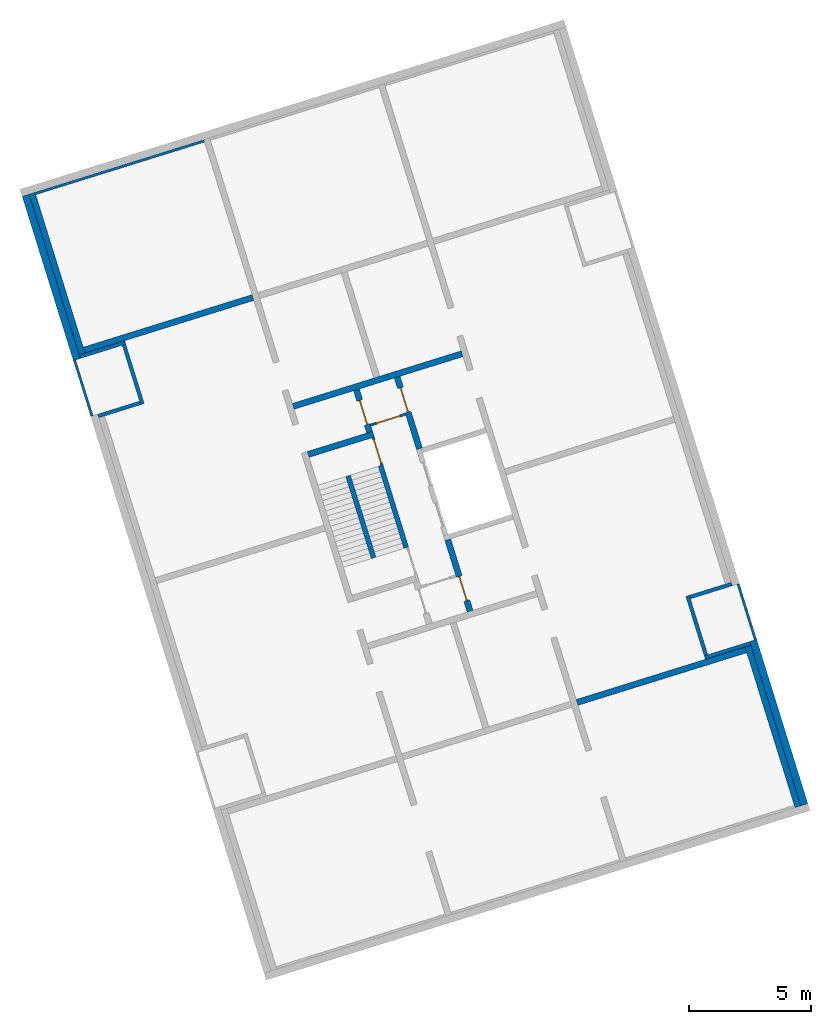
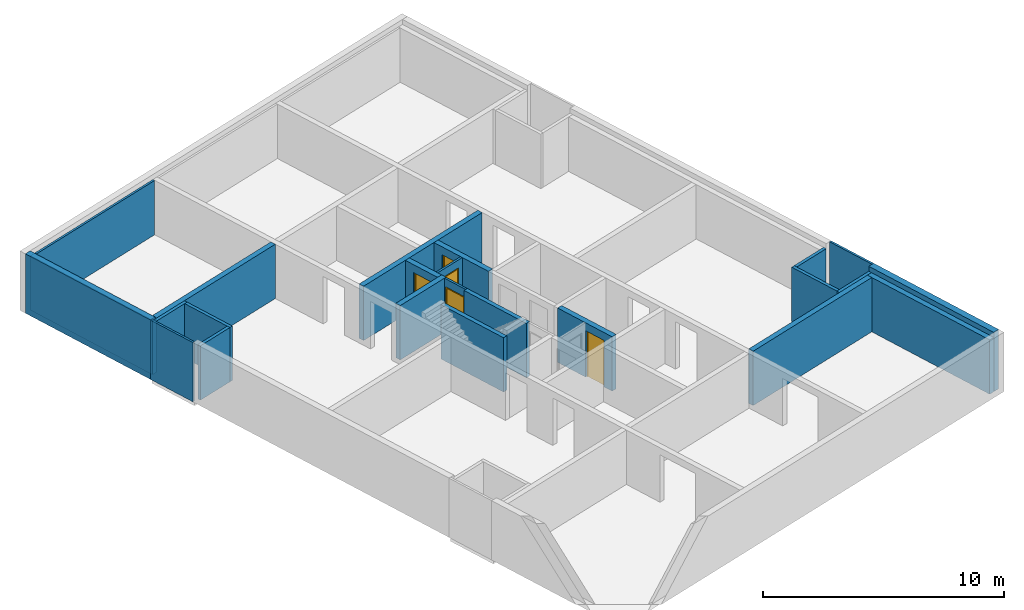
# One storey, part 2 of 5: 24 walls, 5 doors, 5 openings.
"""IFC4 building model written with IfcOpenShell, lengths in metres."""

import ifcopenshell
import ifcopenshell.guid

model = None  # the IFC model being written
_history = None  # IfcOwnerHistory: only IFC2X3 demands one
_inside = {}  # id of a spatial element -> (the spatial element, [elements in it])
_under = {}  # id of a project, library or spatial element -> (it, [spatial elements below it])
_declared = {}  # id of a project -> (the project, [libraries it declares])
_typed = {}  # id of a type object -> (the type object, [elements of that type])
_made_of = {}  # id of a material, layer set ... -> (it, [elements and type objects made of it])


def new_model(schema):
    """Start an empty IFC model of exactly this schema.

    Asked for "IFC4X3", IfcOpenShell would pick the latest addendum, in which some entities
    have other attributes; the version numbers below select the first issue.
    IFC2X3 requires an IfcOwnerHistory on every rooted entity: one is made here for all.
    """
    global model, _history
    if schema == "IFC4X3":
        model = ifcopenshell.file(schema_version=(4, 3, 0, 0))
    else:
        model = ifcopenshell.file(schema=schema)
    _inside.clear()
    _under.clear()
    _declared.clear()
    _typed.clear()
    _made_of.clear()
    _history = None
    if model.schema == "IFC2X3":
        org = make("IfcOrganization", Name="unknown")
        user = make(
            "IfcPersonAndOrganization",
            ThePerson=make("IfcPerson", FamilyName="unknown"),
            TheOrganization=org,
        )
        app = make(
            "IfcApplication",
            ApplicationDeveloper=org,
            Version="unknown",
            ApplicationFullName="unknown",
            ApplicationIdentifier="unknown",
        )
        _history = make(
            "IfcOwnerHistory",
            OwningUser=user,
            OwningApplication=app,
            ChangeAction="ADDED",
            CreationDate=0,
        )
    return model


def make(cls, **values):
    """One entity of the class cls with the attributes given. An attribute that is None is left unset."""
    return model.create_entity(
        cls, **{name: value for name, value in values.items() if value is not None}
    )


def entity(cls, *values):
    """Any entity or typed value of the class cls, its attributes in the order of the schema. None: left unset."""
    e = model.create_entity(cls)
    for i, value in enumerate(values):
        if value is not None:
            e[i] = value
    return e


def rooted(cls, **values):
    """An entity with a GlobalId (a new one), such as an element, a storey or a relation."""
    return make(cls, GlobalId=ifcopenshell.guid.new(), OwnerHistory=_history, **values)


def si_unit(unit_type, name, prefix=None):
    """IfcSIUnit, for example si_unit("LENGTHUNIT", "METRE", prefix="MILLI")."""
    return make("IfcSIUnit", UnitType=unit_type, Prefix=prefix, Name=name)


def converted_unit(unit_type, name, factor, base, dimensions=None, offset=None):
    """IfcConversionBasedUnit, such as the inch: factor (a typed value) times the base unit."""
    return make(
        "IfcConversionBasedUnit"
        if offset is None
        else "IfcConversionBasedUnitWithOffset",
        ConversionOffset=offset,
        Dimensions=None
        if dimensions is None
        else entity("IfcDimensionalExponents", *dimensions),
        UnitType=unit_type,
        Name=name,
        ConversionFactor=make(
            "IfcMeasureWithUnit", ValueComponent=factor, UnitComponent=base
        ),
    )


def assignment(units):
    """IfcUnitAssignment: the units of a project."""
    return None if units is None else make("IfcUnitAssignment", Units=units)


def point(xyz):
    """IfcCartesianPoint."""
    return None if xyz is None else make("IfcCartesianPoint", Coordinates=xyz)


def direction(xyz):
    """IfcDirection."""
    return None if xyz is None else make("IfcDirection", DirectionRatios=xyz)


def frame(location, z_axis=None, x_axis=None):
    """IfcAxis2Placement3D, a coordinate frame: its origin and axes. An axis left out is left unset."""
    return make(
        "IfcAxis2Placement3D",
        Location=point(location),
        Axis=direction(z_axis),
        RefDirection=direction(x_axis),
    )


def origin():
    """The frame at (0, 0, 0) with its axes left unset."""
    return frame((0.0, 0.0, 0.0))


def place(relative_to, where):
    """IfcLocalPlacement: puts the frame where relative to a parent placement (None: the world)."""
    return make(
        "IfcLocalPlacement", PlacementRelTo=relative_to, RelativePlacement=where
    )


def context(
    kind, dimensions, precision=None, world=None, true_north=None, identifier=None
):
    """IfcGeometricRepresentationContext, for example the 3D "Model" context."""
    return make(
        "IfcGeometricRepresentationContext",
        ContextIdentifier=identifier,
        ContextType=kind,
        CoordinateSpaceDimension=dimensions,
        Precision=precision,
        WorldCoordinateSystem=world,
        TrueNorth=true_north,
    )


def subcontext(parent, identifier, kind, view, scale=None):
    """IfcGeometricRepresentationSubContext, for example "Body" below "Model"."""
    return make(
        "IfcGeometricRepresentationSubContext",
        ContextIdentifier=identifier,
        ContextType=kind,
        ParentContext=parent,
        TargetScale=scale,
        TargetView=view,
    )


def project(units=None, contexts=None):
    """IfcProject with its units and contexts."""
    return rooted(
        "IfcProject",
        Name="project",
        RepresentationContexts=contexts,
        UnitsInContext=assignment(units),
    )


def spatial(cls, under=None, at=None, **own):
    """A site, building, storey or space (cls), placed at a placement, below another one or the project."""
    s = rooted(cls, ObjectPlacement=at, **own)
    if under is not None:
        _under.setdefault(under.id(), (under, []))[1].append(s)
    return s


def point_list(points):
    """IfcCartesianPointList2D or 3D."""
    cls = (
        "IfcCartesianPointList2D" if len(points[0]) == 2 else "IfcCartesianPointList3D"
    )
    return make(cls, CoordList=points)


def indexed_curve(points, segments=None, self_intersect=None):
    """IfcIndexedPolyCurve: lines and arcs through numbered points (the first is 1)."""
    return make(
        "IfcIndexedPolyCurve",
        Points=point_list(points),
        Segments=segments,
        SelfIntersect=self_intersect,
    )


def outline(outer, holes=None, kind="AREA"):
    """IfcArbitraryClosedProfileDef: a profile drawn as a closed curve; with holes, ...WithVoids."""
    if holes is None:
        return make("IfcArbitraryClosedProfileDef", ProfileType=kind, OuterCurve=outer)
    return make(
        "IfcArbitraryProfileDefWithVoids",
        ProfileType=kind,
        OuterCurve=outer,
        InnerCurves=holes,
    )


def extrude(swept, where, along, depth):
    """IfcExtrudedAreaSolid: the profile swept, set in the frame where, extruded along a direction by depth."""
    return make(
        "IfcExtrudedAreaSolid",
        SweptArea=swept,
        Position=where,
        ExtrudedDirection=direction(along),
        Depth=depth,
    )


def polygons(points, faces, closed=None, point_numbers=None):
    """IfcPolygonalFaceSet: a face is its outer loop, then its inner loops; points numbered from 1."""
    made = []
    for loops in faces:
        if len(loops) == 1:
            made.append(make("IfcIndexedPolygonalFace", CoordIndex=loops[0]))
        else:
            made.append(
                make(
                    "IfcIndexedPolygonalFaceWithVoids",
                    CoordIndex=loops[0],
                    InnerCoordIndices=loops[1:],
                )
            )
    return make(
        "IfcPolygonalFaceSet",
        Coordinates=point_list(points),
        Closed=closed,
        Faces=made,
        PnIndex=point_numbers,
    )


def shape(context_of_items, identifier, shape_type, items):
    """IfcShapeRepresentation: the items that make up one representation, for example the "Body"."""
    return make(
        "IfcShapeRepresentation",
        ContextOfItems=context_of_items,
        RepresentationIdentifier=identifier,
        RepresentationType=shape_type,
        Items=items,
    )


def source(mapping_origin, context_of_items, identifier, shape_type, items):
    """IfcRepresentationMap: a shape defined once, which mapped items show again and again."""
    return make(
        "IfcRepresentationMap",
        MappingOrigin=mapping_origin,
        MappedRepresentation=shape(context_of_items, identifier, shape_type, items),
    )


def transform(
    local_origin,
    x_axis=None,
    y_axis=None,
    z_axis=None,
    scale=None,
    scale2=None,
    scale3=None,
    uniform=True,
):
    """IfcCartesianTransformationOperator3D, or its non-uniform kind. x_axis, y_axis, z_axis: its Axis1, 2, 3."""
    if uniform:
        return make(
            "IfcCartesianTransformationOperator3D",
            Axis1=direction(x_axis),
            Axis2=direction(y_axis),
            LocalOrigin=point(local_origin),
            Scale=scale,
            Axis3=direction(z_axis),
        )
    return make(
        "IfcCartesianTransformationOperator3DnonUniform",
        Axis1=direction(x_axis),
        Axis2=direction(y_axis),
        LocalOrigin=point(local_origin),
        Scale=scale,
        Axis3=direction(z_axis),
        Scale2=scale2,
        Scale3=scale3,
    )


def mapped(mapping_source, mapping_target):
    """IfcMappedItem: shows the shape of a source again, moved by a transform."""
    return make(
        "IfcMappedItem", MappingSource=mapping_source, MappingTarget=mapping_target
    )


def material(Name=None, Category=None):
    """IfcMaterial."""
    return make("IfcMaterial", Name=Name, Category=Category)


def constituent(of_material, Name=None, Category=None, fraction=None):
    """IfcMaterialConstituent: one of the materials an element consists of."""
    return make(
        "IfcMaterialConstituent",
        Name=Name,
        Material=of_material,
        Fraction=fraction,
        Category=Category,
    )


def constituent_set(constituents=None, Name=None):
    """IfcMaterialConstituentSet."""
    return make(
        "IfcMaterialConstituentSet", Name=Name, MaterialConstituents=constituents
    )


def made_of(thing, what):
    """Note that an element or type object is made of a material, layer set ...; save() writes the relation."""
    if what is not None:
        _made_of.setdefault(what.id(), (what, []))[1].append(thing)
    return thing


def type_object(cls, material=None, **own):
    """A type object (cls), such as IfcWallType, which elements share."""
    return made_of(rooted(cls, **own), material)


def type_shapes(of_type, sources):
    """Give a type object the sources (RepresentationMaps) that its elements show as mapped items."""
    of_type.RepresentationMaps = sources


def element(
    cls,
    number,
    at=None,
    inside=None,
    cuts=None,
    type_object=None,
    material=None,
    context=None,
    identifier="Body",
    shape_type=None,
    held_by="IfcProductDefinitionShape",
    body=None,
    shapes=None,
    **own,
):
    """One element of the class cls, such as IfcWall. Its Tag is "e" and its number.

    at: its placement. inside: the storey or other place that contains it. cuts: it is an
    opening in that element (IfcRelVoidsElement). A single representation is given by context,
    identifier, shape_type and body (its items); several are given by shapes. held_by: the class
    of the entity that holds the representations. save() writes the other relations.
    """
    e = rooted(cls, Tag="e%d" % number, ObjectPlacement=at, **own)
    if body is not None:
        shapes = [shape(context, identifier, shape_type, body)]
    if shapes is not None:
        e.Representation = make(held_by, Representations=shapes)
    if inside is not None:
        _inside.setdefault(inside.id(), (inside, []))[1].append(e)
    if cuts is not None:
        rooted(
            "IfcRelVoidsElement", RelatingBuildingElement=cuts, RelatedOpeningElement=e
        )
    if type_object is not None:
        _typed.setdefault(type_object.id(), (type_object, []))[1].append(e)
    return made_of(e, material)


def fill(opening, filler):
    """IfcRelFillsElement: the door or window that sits in an opening."""
    return rooted(
        "IfcRelFillsElement",
        RelatingOpeningElement=opening,
        RelatedBuildingElement=filler,
    )


def aggregate(whole, parts):
    """IfcRelAggregates: a whole, such as a stair, and the parts it consists of."""
    return rooted("IfcRelAggregates", RelatingObject=whole, RelatedObjects=parts)


def save(model, path):
    """Write the relations noted so far, then the file.

    IfcRelAggregates (storeys below a building ...), IfcRelContainedInSpatialStructure (elements
    in a storey), IfcRelDefinesByType, IfcRelAssociatesMaterial and IfcRelDeclares: one each for
    every whole, place, type object, material and project.
    """
    for whole, parts in _under.values():
        aggregate(whole, parts)
    for where, things in _inside.values():
        rooted(
            "IfcRelContainedInSpatialStructure",
            RelatedElements=things,
            RelatingStructure=where,
        )
    for kind, things in _typed.values():
        rooted("IfcRelDefinesByType", RelatedObjects=things, RelatingType=kind)
    for what, things in _made_of.values():
        rooted("IfcRelAssociatesMaterial", RelatedObjects=things, RelatingMaterial=what)
    for by, libraries in _declared.values():
        rooted("IfcRelDeclares", RelatingContext=by, RelatedDefinitions=libraries)
    model.write(path)


model = new_model("IFC4")

# Units and contexts
model_context = context("Model", 3, precision=1e-05, world=origin(), true_north=direction((6.12323399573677e-17, 1.0)))
body_context = subcontext(model_context, "Body", "Model", "MODEL_VIEW")
ifc_project = project(units=[si_unit("LENGTHUNIT", "METRE"), si_unit("AREAUNIT", "SQUARE_METRE"), si_unit("VOLUMEUNIT", "CUBIC_METRE"), converted_unit("PLANEANGLEUNIT", "DEGREE", entity("IfcPlaneAngleMeasure", 0.0174532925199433), si_unit("PLANEANGLEUNIT", "RADIAN"), dimensions=[0, 0, 0, 0, 0, 0, 0])], contexts=[model_context])

# Site, building, storey
site_placement = place(None, frame((13.1347999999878, 11.9886000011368, 0.0), z_axis=(0.0, 0.0, 1.0), x_axis=(0.954770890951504, 0.297342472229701, 0.0)))
site = spatial("IfcSite", under=ifc_project, at=site_placement, Name="Schiehaven", CompositionType="ELEMENT")
building_placement = place(site_placement, origin())
building = spatial("IfcBuilding", under=site, at=building_placement, Name="VORM huis", CompositionType="ELEMENT")
storey_placement = place(building_placement, frame((0.0, 0.0, 3.9)))
storey = spatial("IfcBuildingStorey", under=building, at=storey_placement, Name="01 eerste verdieping", CompositionType="ELEMENT", Elevation=3.9)

# Walls
ifc_material_1 = material(Name="beton_gewapend_ihw", Category="Miscellaneous")
wall_type_1 = type_object("IfcWallType", Name="Basic Wall:28_WA_skelet_wand 250mm_gen", PredefinedType="STANDARD")
wall_1_placement = place(storey_placement, frame((80.0, 0.375000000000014, 0.0), z_axis=(0.0, 0.0, 1.0), x_axis=(0.0, 1.0, 0.0)))
element("IfcWall", 1, at=wall_1_placement, inside=storey, type_object=wall_type_1, material=ifc_material_1, Name="Constructieve wand", ObjectType="Wand", PredefinedType="NOTDEFINED", context=body_context, shape_type="SweptSolid", body=[
    extrude(outline(indexed_curve([(6.90000000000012, 0.125000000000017), (-3.43198038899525e-16, 0.125000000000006), (3.43198038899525e-16, -0.125000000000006), (6.90000000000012, -0.124999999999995), (6.90000000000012, 0.125000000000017)], self_intersect=False)), origin(), (0.0, 0.0, 1.0), 2.75),
])
wall_2_placement = place(storey_placement, frame((72.3750000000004, 22.2, 0.0), z_axis=(0.0, 0.0, 1.0), x_axis=(-1.0, 0.0, 0.0)))
element("IfcWall", 2, at=wall_2_placement, inside=storey, type_object=wall_type_1, material=ifc_material_1, Name="Constructieve wand", ObjectType="Wand", PredefinedType="NOTDEFINED", context=body_context, shape_type="SweptSolid", body=[
    extrude(outline(indexed_curve([(7.25000000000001, 0.125000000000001), (5.45998213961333e-16, 0.125000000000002), (-5.45998213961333e-16, -0.125000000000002), (7.25000000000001, -0.125000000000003), (7.25000000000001, 0.125000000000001)], self_intersect=False)), origin(), (0.0, 0.0, 1.0), 2.75),
])
wall_3_placement = place(storey_placement, frame((57.5000000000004, 26.825, 0.0), z_axis=(0.0, 0.0, 1.0), x_axis=(0.0, 1.0, 0.0)))
element("IfcWall", 3, at=wall_3_placement, inside=storey, type_object=wall_type_1, material=ifc_material_1, Name="Constructieve wand", ObjectType="Wand", PredefinedType="NOTDEFINED", context=body_context, shape_type="SweptSolid", body=[
    extrude(outline(indexed_curve([(6.90000000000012, 0.124999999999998), (-5.78291890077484e-18, 0.124999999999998), (5.78291890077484e-18, -0.124999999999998), (6.90000000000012, -0.124999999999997), (6.90000000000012, 0.124999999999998)], self_intersect=False)), origin(), (0.0, 0.0, 1.0), 2.75),
])
ifc_material_2 = material(Name="ntb_ntb_ntb", Category="Miscellaneous")
wall_type_2 = type_object("IfcWallType", Name="Basic Wall:21_WA_gevel_binnenspouwwand 100mm_gen", PredefinedType="STANDARD")
wall_4_placement = place(storey_placement, frame((64.8750000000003, 33.675, 0.0), z_axis=(0.0, 0.0, 1.0), x_axis=(-1.0, 0.0, 0.0)))
element("IfcWall", 4, at=wall_4_placement, inside=storey, type_object=wall_type_2, material=ifc_material_2, Name="Binnenspouwblad", ObjectType="Wand", PredefinedType="NOTDEFINED", context=body_context, shape_type="SweptSolid", body=[
    extrude(outline(indexed_curve([(7.24999999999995, 0.0499999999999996), (1.63227275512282e-16, 0.0500000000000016), (-1.63227275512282e-16, -0.0500000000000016), (7.24999999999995, -0.0500000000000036), (7.24999999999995, 0.0499999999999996)], self_intersect=False)), origin(), (0.0, 0.0, 1.0), 2.75),
])
wall_type_3 = type_object("IfcWallType", Name="Basic Wall: 300mm_gen", PredefinedType="STANDARD")
wall_5_placement = place(storey_placement, frame((80.2750000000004, 0.375000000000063, 0.0), z_axis=(0.0, 0.0, 1.0), x_axis=(0.0, 1.0, 0.0)))
element("IfcWall", 5, at=wall_5_placement, inside=storey, type_object=wall_type_3, material=ifc_material_2, Name="Gevelwand", ObjectType="Wand", PredefinedType="NOTDEFINED", context=body_context, shape_type="SweptSolid", body=[
    extrude(outline(indexed_curve([(7.05000000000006, 0.149999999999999), (-1.38374462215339e-16, 0.150000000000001), (1.38374462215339e-16, -0.150000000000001), (7.05000000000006, -0.150000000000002), (7.05000000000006, 0.149999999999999)], self_intersect=False)), origin(), (0.0, 0.0, 1.0), 3.0),
])
wall_6_placement = place(storey_placement, frame((57.2250000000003, 26.675, 0.0), z_axis=(0.0, 0.0, 1.0), x_axis=(0.0, 1.0, 0.0)))
element("IfcWall", 6, at=wall_6_placement, inside=storey, type_object=wall_type_3, material=ifc_material_2, Name="Gevelwand", ObjectType="Wand", PredefinedType="NOTDEFINED", context=body_context, shape_type="SweptSolid", body=[
    extrude(outline(indexed_curve([(7.04999999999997, 0.150000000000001), (5.38417493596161e-16, 0.150000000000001), (-5.38417493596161e-16, -0.150000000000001), (7.04999999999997, -0.15), (7.04999999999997, 0.150000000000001)], self_intersect=False)), origin(), (0.0, 0.0, 1.0), 3.0),
])
ifc_material_3 = material(Name="beton_gewapend_prefab-element", Category="Miscellaneous")
wall_type_4 = type_object("IfcWallType", Name="Basic Wall:28_WA_skelet_wand 200mm_gen", PredefinedType="STANDARD")
wall_7_placement = place(storey_placement, frame((67.8250000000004, 15.29, 0.0), z_axis=(0.0, 0.0, 1.0), x_axis=(0.0, 1.0, 0.0)))
element("IfcWall", 7, at=wall_7_placement, inside=storey, type_object=wall_type_4, material=ifc_material_3, Name="Constructieve wand", ObjectType="Wand", PredefinedType="NOTDEFINED", context=body_context, shape_type="SweptSolid", body=[
    extrude(outline(indexed_curve([(3.52, 0.100000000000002), (5.14948433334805e-16, 0.100000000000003), (-5.14948433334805e-16, -0.100000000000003), (3.52, -0.100000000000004), (3.52, 0.100000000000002)], self_intersect=False)), origin(), (0.0, 0.0, 1.0), 2.75),
])
wall_8_placement = place(storey_placement, frame((66.4250000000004, 15.29, 0.0), z_axis=(0.0, 0.0, 1.0), x_axis=(0.0, 1.0, 0.0)))
element("IfcWall", 8, at=wall_8_placement, inside=storey, type_object=wall_type_4, material=ifc_material_3, Name="Constructieve wand", ObjectType="Wand", PredefinedType="NOTDEFINED", context=body_context, shape_type="SweptSolid", body=[
    extrude(outline(indexed_curve([(3.52, 0.100000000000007), (6.38001516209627e-16, 0.100000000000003), (-6.38001516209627e-16, -0.100000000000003), (3.52, -0.0999999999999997), (3.52, 0.100000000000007)], self_intersect=False)), origin(), (0.0, 0.0, 1.0), 2.75),
])
wall_type_5 = type_object("IfcWallType", Name="Basic Wall:22_WA_afbouw_binnenwand 250mm_gen", PredefinedType="STANDARD")
wall_9_placement = place(storey_placement, frame((65.1250000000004, 20.135, 0.0)))
element("IfcWall", 9, at=wall_9_placement, inside=storey, type_object=wall_type_5, material=ifc_material_2, Name="Binnenwand", ObjectType="Wand", PredefinedType="NOTDEFINED", context=body_context, shape_type="SweptSolid", body=[
    extrude(outline(indexed_curve([(2.80000000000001, 0.124999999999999), (4.98902105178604e-16, 0.125000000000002), (-4.98902105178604e-16, -0.125000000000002), (2.8, -0.125000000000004), (2.80000000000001, 0.124999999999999)], self_intersect=False)), origin(), (0.0, 0.0, 1.0), 2.75),
])

# Wall, opening, door
wall_10_placement = place(storey_placement, frame((67.8000000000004, 20.26, 0.0), z_axis=(0.0, 0.0, 1.0), x_axis=(0.0, 1.0, 0.0)))
wall_10 = element("IfcWall", 10, at=wall_10_placement, inside=storey, type_object=wall_type_5, material=ifc_material_2, Name="Binnenwand", ObjectType="Wand", PredefinedType="NOTDEFINED", context=body_context, shape_type="Tessellation", body=[
    polygons([(1.36499999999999, -0.12500000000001, 2.34999999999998), (1.36499999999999, -0.12500000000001, -5.41433564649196e-16), (1.81499999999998, -0.125000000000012, -5.41433564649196e-16), (1.81499999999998, -0.125000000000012, 2.75), (0.315000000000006, -0.125000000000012, 2.75), (0.215000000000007, -0.125000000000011, 2.75), (-4.33146851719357e-15, -0.12500000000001, 2.75), (-4.33146851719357e-15, -0.12500000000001, -5.41433564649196e-16), (0.215000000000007, -0.125000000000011, 0.0), (0.314999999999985, -0.125000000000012, -5.41433564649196e-16), (0.314999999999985, -0.125000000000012, 2.34999999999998), (1.81499999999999, 0.124999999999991, -5.41433564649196e-16), (1.36499999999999, 0.124999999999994, -5.41433564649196e-16), (1.36499999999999, 0.124999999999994, 2.34999999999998), (0.314999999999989, 0.125000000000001, 2.34999999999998), (0.314999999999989, 0.125000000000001, -5.41433564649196e-16), (0.0, 0.125000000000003, -5.41433564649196e-16), (0.0, 0.125000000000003, 2.75), (1.81499999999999, 0.124999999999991, 2.75)], [[[1, 2, 3, 4, 5, 6, 7, 8, 9, 10, 11]], [[12, 13, 14, 15, 16, 17, 18, 19]], [[10, 9, 8, 17, 16]], [[4, 3, 12, 19]], [[7, 6, 5, 4, 19, 18]], [[16, 15, 11, 10]], [[14, 13, 2, 1]], [[15, 14, 1, 11]], [[8, 7, 18, 17]], [[3, 2, 13, 12]]], closed=True),
])
opening_1_placement = place(wall_10_placement, frame((1.36499999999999, 0.125000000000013, 0.0)))
opening_1 = element("IfcOpeningElement", 11, at=opening_1_placement, cuts=wall_10, Name="Woningtoegangsdeur", PredefinedType="OPENING", context=body_context, shape_type="SweptSolid", body=[
    extrude(outline(indexed_curve([(2.34999999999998, 1.05), (0.0, 1.05), (0.0, 3.98354849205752e-29), (2.34999999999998, 3.98354849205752e-29), (2.34999999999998, 1.05)], self_intersect=False)), frame((0.0, 0.0, 0.0), z_axis=(0.0, -1.0, 0.0), x_axis=(0.0, 0.0, 1.0)), (0.0, 0.0, 1.0), 0.25),
])
ifc_material_4 = material(Name="PD_a_binnenwandopeningen", Category="Miscellaneous")
ifc_constituent_1 = constituent(ifc_material_4, Name="PD_a_binnenwandopeningen", Category="Miscellaneous")
ifc_material_5 = material(Name="metaal_aluminium_ntb", Category="Miscellaneous")
ifc_constituent_2 = constituent(ifc_material_5, Name="metaal_aluminium_ntb", Category="Miscellaneous")
ifc_constituent_set_1 = constituent_set(constituents=[ifc_constituent_1, ifc_constituent_2])
ifc_constituent_3 = constituent(ifc_material_4, Name="PD_a_binnenwandopeningen", Category="Miscellaneous")
ifc_constituent_4 = constituent(ifc_material_5, Name="Panel", Category="Miscellaneous")
ifc_constituent_set_2 = constituent_set(constituents=[ifc_constituent_3, ifc_constituent_4])
door_type_1 = type_object("IfcDoorType", Name="32_DO_binnendeur enkel:woningtoegangsdeur", OperationType="REVOLVING", PredefinedType="DOOR", material=ifc_constituent_set_2)
shared_shape_1 = source(origin(), body_context, "Body", "SweptSolid", [
    extrude(outline(indexed_curve([(-1.16249999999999, -0.525000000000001), (1.18749999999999, -0.525), (1.18749999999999, 0.525000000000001), (-1.16249999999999, 0.525000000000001), (-1.16249999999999, 0.475), (1.13749999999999, 0.475), (1.13749999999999, -0.475), (-1.16249999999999, -0.475), (-1.16249999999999, -0.525000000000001)], self_intersect=False)), frame((0.525000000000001, 0.0749999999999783, 1.16249999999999), z_axis=(0.0, 1.0, 0.0), x_axis=(0.0, 0.0, 1.0)), (0.0, 0.0, 1.0), 0.1),
    extrude(outline(indexed_curve([(-0.025, -0.475), (0.025, -0.475), (0.025, 0.475), (-0.025, 0.475), (-0.025, -0.475)], self_intersect=False)), frame((0.525000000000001, 0.12499999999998, 0.0), z_axis=(0.0, 0.0, 1.0), x_axis=(0.0, 1.0, 0.0)), (0.0, 0.0, 1.0), 2.29999999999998),
])
type_shapes(door_type_1, [shared_shape_1])
door_1_placement = place(opening_1_placement, frame((0.0, 0.0, 0.0), z_axis=(0.0, 0.0, 1.0), x_axis=(-1.0, 0.0, 0.0)))
door_1 = element("IfcDoor", 12, at=door_1_placement, inside=storey, type_object=door_type_1, material=ifc_constituent_set_1, Name="Woningtoegangsdeur", ObjectType="Deur", OperationType="REVOLVING", OverallHeight=2.34999999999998, OverallWidth=1.05, PredefinedType="DOOR", context=body_context, shape_type="MappedRepresentation", body=[
    mapped(shared_shape_1, transform((0.0, 0.0, 0.0), scale=1.0)),
])
fill(opening_1, door_1)

wall_11_placement = place(storey_placement, frame((69.5500000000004, 19.0, 0.0), z_axis=(0.0, 0.0, 1.0), x_axis=(0.0, 1.0, 0.0)))
wall_11 = element("IfcWall", 13, at=wall_11_placement, inside=storey, type_object=wall_type_5, material=ifc_material_2, Name="Binnenwand", ObjectType="Wand", PredefinedType="NOTDEFINED", context=body_context, shape_type="Tessellation", body=[
    polygons([(2.62500000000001, -0.125000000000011, 2.34999999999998), (2.62500000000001, -0.125000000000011, -5.41433564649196e-16), (3.07499999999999, -0.125000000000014, -5.41433564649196e-16), (3.07499999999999, -0.125000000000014, 2.75), (2.16573425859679e-15, -0.125000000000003, 2.75), (2.16573425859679e-15, -0.125000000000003, -5.41433564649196e-16), (1.575, -0.125000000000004, -5.41433564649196e-16), (1.575, -0.125000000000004, 2.34999999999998), (3.075, 0.124999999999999, -5.41433564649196e-16), (2.62500000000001, 0.125000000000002, -5.41433564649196e-16), (2.62500000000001, 0.125000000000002, 2.34999999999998), (1.575, 0.125, 2.34999999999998), (1.575, 0.125, -5.41433564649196e-16), (1.47500000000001, 0.125, 0.0), (0.0, 0.125000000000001, -5.41433564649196e-16), (0.0, 0.125000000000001, 2.75), (1.47500000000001, 0.125, 2.75), (1.57500000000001, 0.125, 2.75), (3.075, 0.124999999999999, 2.75)], [[[1, 2, 3, 4, 5, 6, 7, 8]], [[9, 10, 11, 12, 13, 14, 15, 16, 17, 18, 19]], [[7, 6, 15, 14, 13]], [[4, 3, 9, 19]], [[5, 4, 19, 18, 17, 16]], [[6, 5, 16, 15]], [[13, 12, 8, 7]], [[11, 10, 2, 1]], [[12, 11, 1, 8]], [[3, 2, 10, 9]]], closed=True),
])
opening_2_placement = place(wall_11_placement, frame((1.57500000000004, -0.124999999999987, 0.0)))
opening_2 = element("IfcOpeningElement", 14, at=opening_2_placement, cuts=wall_11, Name="Woningtoegangsdeur", PredefinedType="OPENING", context=body_context, shape_type="SweptSolid", body=[
    extrude(outline(indexed_curve([(2.34999999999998, 4.05964127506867e-29), (2.34999999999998, 1.05), (0.0, 1.05), (0.0, 4.05964127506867e-29), (2.34999999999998, 4.05964127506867e-29)], self_intersect=False)), frame((0.0, 0.0, 0.0), z_axis=(0.0, 1.0, 0.0), x_axis=(0.0, 0.0, 1.0)), (0.0, 0.0, 1.0), 0.25),
])
ifc_constituent_5 = constituent(ifc_material_4, Name="PD_a_binnenwandopeningen", Category="Miscellaneous")
ifc_constituent_6 = constituent(ifc_material_5, Name="metaal_aluminium_ntb", Category="Miscellaneous")
ifc_constituent_set_3 = constituent_set(constituents=[ifc_constituent_5, ifc_constituent_6])
ifc_constituent_7 = constituent(ifc_material_4, Name="PD_a_binnenwandopeningen", Category="Miscellaneous")
ifc_constituent_8 = constituent(ifc_material_5, Name="Panel", Category="Miscellaneous")
ifc_constituent_set_4 = constituent_set(constituents=[ifc_constituent_7, ifc_constituent_8])
door_type_2 = type_object("IfcDoorType", Name="32_DO_binnendeur enkel:woningtoegangsdeur", OperationType="REVOLVING", PredefinedType="DOOR", material=ifc_constituent_set_4)
shared_shape_2 = source(origin(), body_context, "Body", "SweptSolid", [
    extrude(outline(indexed_curve([(0.475, -1.16249999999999), (0.525000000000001, -1.16249999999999), (0.525000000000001, 1.18749999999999), (-0.525000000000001, 1.18749999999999), (-0.525000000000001, -1.16249999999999), (-0.475, -1.16249999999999), (-0.475, 1.13749999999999), (0.475, 1.13749999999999), (0.475, -1.16249999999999)], self_intersect=False)), frame((0.525000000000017, 0.174999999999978, 1.16249999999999), z_axis=(0.0, -1.0, 0.0), x_axis=(1.0, 0.0, 0.0)), (0.0, 0.0, 1.0), 0.1),
    extrude(outline(indexed_curve([(-0.475, -0.025), (0.475, -0.025), (0.475, 0.025), (-0.475, 0.025), (-0.475, -0.025)], self_intersect=False)), frame((0.525000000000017, 0.12499999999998, 0.0)), (0.0, 0.0, 1.0), 2.29999999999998),
])
type_shapes(door_type_2, [shared_shape_2])
door_2_placement = place(opening_2_placement, origin())
door_2 = element("IfcDoor", 15, at=door_2_placement, inside=storey, type_object=door_type_2, material=ifc_constituent_set_3, Name="Woningtoegangsdeur", ObjectType="Deur", OperationType="REVOLVING", OverallHeight=2.34999999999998, OverallWidth=1.05, PredefinedType="DOOR", context=body_context, shape_type="MappedRepresentation", body=[
    mapped(shared_shape_2, transform((0.0, 0.0, 0.0), scale=1.0)),
])
fill(opening_2, door_2)

wall_12_placement = place(storey_placement, frame((69.5500000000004, 15.1, 0.0), z_axis=(0.0, 0.0, 1.0), x_axis=(0.0, -1.0, 0.0)))
wall_12 = element("IfcWall", 16, at=wall_12_placement, inside=storey, type_object=wall_type_5, material=ifc_material_2, Name="Binnenwand", ObjectType="Wand", PredefinedType="NOTDEFINED", context=body_context, shape_type="Tessellation", body=[
    polygons([(2.625, -0.125000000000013, 2.34999999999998), (2.625, -0.125000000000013, -5.41433564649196e-16), (3.07499999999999, -0.125000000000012, -5.41433564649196e-16), (3.07499999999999, -0.125000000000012, 2.75), (1.57499999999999, -0.125000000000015, 2.75), (1.47499999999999, -0.125000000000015, 2.75), (0.0, -0.125000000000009, 2.75), (0.0, -0.125000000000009, -5.41433564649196e-16), (1.47499999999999, -0.125000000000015, 0.0), (1.575, -0.125000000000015, -5.41433564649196e-16), (1.575, -0.125000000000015, 2.34999999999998), (3.07499999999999, 0.124999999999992, -5.41433564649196e-16), (2.625, 0.124999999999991, -5.41433564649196e-16), (2.625, 0.124999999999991, 2.34999999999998), (1.575, 0.124999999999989, 2.34999999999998), (1.575, 0.124999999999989, -5.41433564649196e-16), (0.0, 0.124999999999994, -5.41433564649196e-16), (0.0, 0.124999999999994, 2.75), (3.07499999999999, 0.124999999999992, 2.75)], [[[1, 2, 3, 4, 5, 6, 7, 8, 9, 10, 11]], [[12, 13, 14, 15, 16, 17, 18, 19]], [[10, 9, 8, 17, 16]], [[4, 3, 12, 19]], [[7, 6, 5, 4, 19, 18]], [[8, 7, 18, 17]], [[16, 15, 11, 10]], [[14, 13, 2, 1]], [[15, 14, 1, 11]], [[3, 2, 13, 12]]], closed=True),
])
opening_3_placement = place(wall_12_placement, frame((2.625, 0.124999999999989, 0.0)))
opening_3 = element("IfcOpeningElement", 17, at=opening_3_placement, cuts=wall_12, Name="Woningtoegangsdeur", PredefinedType="OPENING", context=body_context, shape_type="SweptSolid", body=[
    extrude(outline(indexed_curve([(2.34999999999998, 1.05), (0.0, 1.05), (0.0, 1.08286712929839e-15), (2.34999999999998, 1.08286712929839e-15), (2.34999999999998, 1.05)], self_intersect=False)), frame((0.0, 0.0, 0.0), z_axis=(0.0, -1.0, 0.0), x_axis=(0.0, 0.0, 1.0)), (0.0, 0.0, 1.0), 0.25),
])
ifc_constituent_9 = constituent(ifc_material_4, Name="PD_a_binnenwandopeningen", Category="Miscellaneous")
ifc_constituent_10 = constituent(ifc_material_5, Name="metaal_aluminium_ntb", Category="Miscellaneous")
ifc_constituent_set_5 = constituent_set(constituents=[ifc_constituent_9, ifc_constituent_10])
door_3_placement = place(opening_3_placement, frame((0.0, 0.0, 0.0), z_axis=(0.0, 0.0, 1.0), x_axis=(-1.0, 0.0, 0.0)))
door_3 = element("IfcDoor", 18, at=door_3_placement, inside=storey, type_object=door_type_1, material=ifc_constituent_set_5, Name="Woningtoegangsdeur", ObjectType="Deur", OperationType="REVOLVING", OverallHeight=2.34999999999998, OverallWidth=1.05, PredefinedType="DOOR", context=body_context, shape_type="MappedRepresentation", body=[
    mapped(shared_shape_1, transform((0.0, 0.0, 0.0), scale=1.0)),
])
fill(opening_3, door_3)

# Walls
wall_13_placement = place(storey_placement, frame((79.8750000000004, 7.15000000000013, 0.0), z_axis=(0.0, 0.0, 1.0), x_axis=(-1.0, 0.0, 0.0)))
element("IfcWall", 19, at=wall_13_placement, inside=storey, type_object=wall_type_5, material=ifc_material_2, Name="Binnenwand", ObjectType="Wand", PredefinedType="NOTDEFINED", context=body_context, shape_type="SweptSolid", body=[
    extrude(outline(indexed_curve([(7.24999999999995, 0.125), (2.64740926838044e-16, 0.125), (-2.64740926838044e-16, -0.125), (7.24999999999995, -0.125), (7.24999999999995, 0.125)], self_intersect=False)), origin(), (0.0, 0.0, 1.0), 2.75),
])
wall_14_placement = place(storey_placement, frame((64.8750000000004, 26.95, 0.0), z_axis=(0.0, 0.0, 1.0), x_axis=(-1.0, 0.0, 0.0)))
element("IfcWall", 20, at=wall_14_placement, inside=storey, type_object=wall_type_5, material=ifc_material_2, Name="Binnenwand", ObjectType="Wand", PredefinedType="NOTDEFINED", context=body_context, shape_type="SweptSolid", body=[
    extrude(outline(indexed_curve([(7.24999999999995, 0.125000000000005), (6.85879083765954e-16, 0.125000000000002), (-6.85879083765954e-16, -0.125000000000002), (7.24999999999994, -0.124999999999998), (7.24999999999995, 0.125000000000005)], self_intersect=False)), origin(), (0.0, 0.0, 1.0), 2.75),
])

# Wall, opening, door
wall_type_6 = type_object("IfcWallType", Name="Basic Wall:22_WA_afbouw_binnenwand 100mm_gen", PredefinedType="STANDARD")
wall_15_placement = place(storey_placement, frame((67.8750000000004, 20.01, 0.0), z_axis=(0.0, 0.0, 1.0), x_axis=(0.0, -1.0, 0.0)))
wall_15 = element("IfcWall", 21, at=wall_15_placement, inside=storey, type_object=wall_type_6, material=ifc_material_2, Name="Binnenwand", ObjectType="Wand", PredefinedType="NOTDEFINED", context=body_context, shape_type="Tessellation", body=[
    polygons([(1.19999999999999, -0.0500000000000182, -5.41433564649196e-16), (1.19999999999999, -0.0500000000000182, 2.75), (0.0, -0.0500000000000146, 2.75), (0.0, -0.0500000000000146, -5.41433564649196e-16), (0.0750000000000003, -0.0500000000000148, -5.41433564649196e-16), (0.0750000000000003, -0.0500000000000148, 2.34999999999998), (1.125, -0.050000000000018, 2.34999999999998), (1.125, -0.050000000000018, -5.41433564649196e-16), (1.19999999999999, 0.0499999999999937, 2.75), (1.19999999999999, 0.0499999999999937, -5.41433564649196e-16), (1.125, 0.049999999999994, -5.41433564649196e-16), (1.125, 0.049999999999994, 2.34999999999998), (0.0750000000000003, 0.0499999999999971, 2.34999999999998), (0.0750000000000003, 0.0499999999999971, -5.41433564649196e-16), (0.0, 0.0499999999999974, -5.41433564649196e-16), (0.0, 0.0499999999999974, 2.75)], [[[1, 2, 3, 4, 5, 6, 7, 8]], [[9, 10, 11, 12, 13, 14, 15, 16]], [[4, 15, 14, 5]], [[2, 1, 10, 9]], [[3, 2, 9, 16]], [[13, 6, 5, 14]], [[6, 13, 12, 7]], [[7, 12, 11, 8]], [[4, 3, 16, 15]], [[10, 1, 8, 11]]], closed=True),
])
opening_4_placement = place(wall_15_placement, frame((1.125, 0.0500000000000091, 0.0)))
opening_4 = element("IfcOpeningElement", 22, at=opening_4_placement, cuts=wall_15, Name="Vluchtdeur", PredefinedType="OPENING", context=body_context, shape_type="SweptSolid", body=[
    extrude(outline(indexed_curve([(2.34999999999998, 9.67690789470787e-30), (2.34999999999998, 1.05), (0.0, 1.05), (0.0, 9.67690789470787e-30), (2.34999999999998, 9.67690789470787e-30)], self_intersect=False)), frame((0.0, 0.0, 0.0), z_axis=(0.0, -1.0, 0.0), x_axis=(0.0, 0.0, 1.0)), (0.0, 0.0, 1.0), 0.1),
])
ifc_constituent_11 = constituent(ifc_material_4, Name="PD_a_binnenwandopeningen", Category="Miscellaneous")
ifc_constituent_12 = constituent(ifc_material_5, Name="metaal_aluminium_ntb", Category="Miscellaneous")
ifc_constituent_set_6 = constituent_set(constituents=[ifc_constituent_11, ifc_constituent_12])
ifc_constituent_13 = constituent(ifc_material_4, Name="PD_a_binnenwandopeningen", Category="Miscellaneous")
ifc_constituent_14 = constituent(ifc_material_5, Name="Panel", Category="Miscellaneous")
ifc_constituent_set_7 = constituent_set(constituents=[ifc_constituent_13, ifc_constituent_14])
door_type_3 = type_object("IfcDoorType", Name="32_DO_binnendeur enkel:binnendeur zelfsluitend 30min", OperationType="NOTDEFINED", PredefinedType="DOOR", material=ifc_constituent_set_7)
shared_shape_3 = source(origin(), body_context, "Body", "SweptSolid", [
    extrude(outline(indexed_curve([(0.475, -1.16249999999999), (0.525, -1.16249999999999), (0.525, 1.18749999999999), (-0.525, 1.18749999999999), (-0.525, -1.16249999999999), (-0.475, -1.16249999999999), (-0.475, 1.13749999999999), (0.475, 1.13749999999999), (0.475, -1.16249999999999)], self_intersect=False)), frame((0.525000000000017, 0.100000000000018, 1.16249999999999), z_axis=(0.0, -1.0, 0.0), x_axis=(1.0, 0.0, 0.0)), (0.0, 0.0, 1.0), 0.1),
    extrude(outline(indexed_curve([(-0.475, -0.025), (0.475, -0.025), (0.475, 0.025), (-0.475, 0.025), (-0.475, -0.025)], self_intersect=False)), frame((0.525000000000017, 0.0499999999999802, 0.0)), (0.0, 0.0, 1.0), 2.29999999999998),
])
type_shapes(door_type_3, [shared_shape_3])
door_4_placement = place(opening_4_placement, frame((0.0, 0.0, 0.0), z_axis=(0.0, 0.0, 1.0), x_axis=(-1.0, 0.0, 0.0)))
door_4 = element("IfcDoor", 23, at=door_4_placement, inside=storey, type_object=door_type_3, material=ifc_constituent_set_6, Name="Vluchtdeur", ObjectType="Deur", OperationType="NOTDEFINED", OverallHeight=2.34999999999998, OverallWidth=1.05, PredefinedType="DOOR", context=body_context, shape_type="MappedRepresentation", body=[
    mapped(shared_shape_3, transform((0.0, 0.0, 0.0), scale=1.0)),
])
fill(opening_4, door_4)

wall_16_placement = place(storey_placement, frame((67.9250000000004, 20.525, 0.0)))
wall_16 = element("IfcWall", 24, at=wall_16_placement, inside=storey, type_object=wall_type_6, material=ifc_material_2, Name="Binnenwand", ObjectType="Wand", PredefinedType="NOTDEFINED", context=body_context, shape_type="Tessellation", body=[
    polygons([(1.49999999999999, -0.0499999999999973, 2.75), (-3.09224517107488e-15, -0.0499999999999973, 2.75), (-3.09224517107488e-15, -0.0499999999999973, -5.41433564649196e-16), (0.22499999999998, -0.0499999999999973, -5.41433564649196e-16), (0.22499999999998, -0.0499999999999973, 2.34999999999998), (1.27499999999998, -0.0499999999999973, 2.34999999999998), (1.27499999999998, -0.0499999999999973, -5.41433564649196e-16), (1.49999999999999, -0.0499999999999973, -5.41433564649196e-16), (-3.14965753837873e-15, 0.0500000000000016, 2.75), (1.49999999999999, 0.0500000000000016, 2.75), (1.49999999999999, 0.0500000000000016, 2.34999999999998), (1.49999999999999, 0.0500000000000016, -5.41433564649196e-16), (1.27499999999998, 0.0500000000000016, -5.41433564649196e-16), (1.27499999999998, 0.0500000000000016, 2.34999999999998), (0.22499999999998, 0.0500000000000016, 2.34999999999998), (0.22499999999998, 0.0500000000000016, -5.41433564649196e-16), (-3.14965753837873e-15, 0.0500000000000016, -5.41433564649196e-16), (-3.14965753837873e-15, 0.0500000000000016, 2.34999999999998)], [[[1, 2, 3, 4, 5, 6, 7, 8]], [[9, 10, 11, 12, 13, 14, 15, 16, 17, 18]], [[3, 17, 16, 4]], [[2, 1, 10, 9]], [[15, 5, 4, 16]], [[5, 15, 14, 6]], [[6, 14, 13, 7]], [[3, 2, 9, 18, 17]], [[1, 8, 12, 11, 10]], [[12, 8, 7, 13]]], closed=True),
])
opening_5_placement = place(wall_16_placement, frame((1.275, 0.0500000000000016, 0.0)))
opening_5 = element("IfcOpeningElement", 25, at=opening_5_placement, cuts=wall_16, Name="Vluchtdeur", PredefinedType="OPENING", context=body_context, shape_type="SweptSolid", body=[
    extrude(outline(indexed_curve([(2.34999999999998, 0.0), (2.34999999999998, 1.05), (0.0, 1.05), (0.0, 0.0), (2.34999999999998, 0.0)], self_intersect=False)), frame((0.0, 0.0, 0.0), z_axis=(0.0, -1.0, 0.0), x_axis=(0.0, 0.0, 1.0)), (0.0, 0.0, 1.0), 0.1),
])
ifc_constituent_15 = constituent(ifc_material_4, Name="PD_a_binnenwandopeningen", Category="Miscellaneous")
ifc_constituent_16 = constituent(ifc_material_5, Name="metaal_aluminium_ntb", Category="Miscellaneous")
ifc_constituent_set_8 = constituent_set(constituents=[ifc_constituent_15, ifc_constituent_16])
door_5_placement = place(opening_5_placement, frame((0.0, 0.0, 0.0), z_axis=(0.0, 0.0, 1.0), x_axis=(-1.0, 0.0, 0.0)))
door_5 = element("IfcDoor", 26, at=door_5_placement, inside=storey, type_object=door_type_3, material=ifc_constituent_set_8, Name="Vluchtdeur", ObjectType="Deur", OperationType="NOTDEFINED", OverallHeight=2.34999999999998, OverallWidth=1.05, PredefinedType="DOOR", context=body_context, shape_type="MappedRepresentation", body=[
    mapped(shared_shape_3, transform((0.0, 0.0, 0.0), scale=1.0)),
])
fill(opening_5, door_5)

# Walls
wall_type_7 = type_object("IfcWallType", Name="Basic Wall: 150mm_gen", PredefinedType="STANDARD")
wall_17_placement = place(storey_placement, frame((80.1250000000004, 7.35000000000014, 0.0), z_axis=(0.0, 0.0, 1.0), x_axis=(-1.0, 0.0, 0.0)))
element("IfcWall", 27, at=wall_17_placement, inside=storey, type_object=wall_type_7, material=ifc_material_2, Name="Gevelwand", ObjectType="Wand", PredefinedType="NOTDEFINED", context=body_context, shape_type="SweptSolid", body=[
    extrude(outline(indexed_curve([(1.94999999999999, 0.0750000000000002), (2.92672273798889e-16, 0.0750000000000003), (-2.92672273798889e-16, -0.0750000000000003), (1.94999999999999, -0.0750000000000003), (1.94999999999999, 0.0750000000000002)], self_intersect=False)), origin(), (0.0, 0.0, 1.0), 2.75),
])
wall_18_placement = place(storey_placement, frame((78.2500000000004, 7.42500000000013, 0.0), z_axis=(0.0, 0.0, 1.0), x_axis=(0.0, 1.0, 0.0)))
element("IfcWall", 28, at=wall_18_placement, inside=storey, type_object=wall_type_7, material=ifc_material_2, Name="Gevelwand", ObjectType="Wand", PredefinedType="NOTDEFINED", context=body_context, shape_type="SweptSolid", body=[
    extrude(outline(indexed_curve([(2.55, 0.0749999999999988), (4.36114281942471e-17, 0.0750000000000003), (-4.36114281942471e-17, -0.0750000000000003), (2.55, -0.0750000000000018), (2.55, 0.0749999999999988)], self_intersect=False)), origin(), (0.0, 0.0, 1.0), 2.75),
])
wall_19_placement = place(storey_placement, frame((78.3250000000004, 9.90000000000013, 0.0)))
element("IfcWall", 29, at=wall_19_placement, inside=storey, type_object=wall_type_7, material=ifc_material_2, Name="Gevelwand", ObjectType="Wand", PredefinedType="NOTDEFINED", context=body_context, shape_type="SweptSolid", body=[
    extrude(outline(indexed_curve([(1.79999999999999, 0.0750000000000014), (4.36114281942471e-17, 0.0750000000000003), (-4.36114281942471e-17, -0.0750000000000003), (1.79999999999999, -0.0749999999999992), (1.79999999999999, 0.0750000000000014)], self_intersect=False)), origin(), (0.0, 0.0, 1.0), 2.75),
])
wall_20_placement = place(storey_placement, frame((57.3750000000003, 26.75, 0.0)))
element("IfcWall", 30, at=wall_20_placement, inside=storey, type_object=wall_type_7, material=ifc_material_2, Name="Gevelwand", ObjectType="Wand", PredefinedType="NOTDEFINED", context=body_context, shape_type="SweptSolid", body=[
    extrude(outline(indexed_curve([(1.95000000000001, 0.0750000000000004), (1.60723273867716e-16, 0.0750000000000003), (-1.60723273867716e-16, -0.0750000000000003), (1.95000000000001, -0.0750000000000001), (1.95000000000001, 0.0750000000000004)], self_intersect=False)), origin(), (0.0, 0.0, 1.0), 2.75),
])
wall_21_placement = place(storey_placement, frame((59.2500000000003, 26.675, 0.0), z_axis=(0.0, 0.0, 1.0), x_axis=(0.0, -1.0, 0.0)))
element("IfcWall", 31, at=wall_21_placement, inside=storey, type_object=wall_type_7, material=ifc_material_2, Name="Gevelwand", ObjectType="Wand", PredefinedType="NOTDEFINED", context=body_context, shape_type="SweptSolid", body=[
    extrude(outline(indexed_curve([(2.55000000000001, 0.0750000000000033), (-8.83375717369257e-17, 0.0750000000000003), (8.83375717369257e-17, -0.0750000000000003), (2.55000000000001, -0.0749999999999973), (2.55000000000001, 0.0750000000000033)], self_intersect=False)), origin(), (0.0, 0.0, 1.0), 2.75),
])
wall_22_placement = place(storey_placement, frame((59.1750000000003, 24.2, 0.0), z_axis=(0.0, 0.0, 1.0), x_axis=(-1.0, 0.0, 0.0)))
element("IfcWall", 32, at=wall_22_placement, inside=storey, type_object=wall_type_7, material=ifc_material_2, Name="Gevelwand", ObjectType="Wand", PredefinedType="NOTDEFINED", context=body_context, shape_type="SweptSolid", body=[
    extrude(outline(indexed_curve([(1.80000000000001, 0.0749999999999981), (-8.83375717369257e-17, 0.0750000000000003), (8.83375717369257e-17, -0.0750000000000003), (1.80000000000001, -0.0750000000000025), (1.80000000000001, 0.0749999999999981)], self_intersect=False)), origin(), (0.0, 0.0, 1.0), 2.75),
])
wall_type_8 = type_object("IfcWallType", Name="Basic Wall: 100mm_gen", PredefinedType="STANDARD")
wall_23_placement = place(storey_placement, frame((80.3750000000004, 7.42500000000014, 0.0), z_axis=(0.0, 0.0, 1.0), x_axis=(0.0, 1.0, 0.0)))
element("IfcWall", 33, at=wall_23_placement, inside=storey, type_object=wall_type_8, material=ifc_material_2, Name="Gevelwand", ObjectType="Wand", PredefinedType="NOTDEFINED", context=body_context, shape_type="SweptSolid", body=[
    extrude(outline(indexed_curve([(2.4, 0.050000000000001), (1.03044120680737e-16, 0.050000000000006), (-1.03044120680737e-16, -0.050000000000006), (2.4, -0.0500000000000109), (2.4, 0.050000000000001)], self_intersect=False)), origin(), (0.0, 0.0, 1.0), 3.0),
])
wall_24_placement = place(storey_placement, frame((57.1250000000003, 26.675, 0.0), z_axis=(0.0, 0.0, 1.0), x_axis=(0.0, -1.0, 0.0)))
element("IfcWall", 34, at=wall_24_placement, inside=storey, type_object=wall_type_8, material=ifc_material_2, Name="Gevelwand", ObjectType="Wand", PredefinedType="NOTDEFINED", context=body_context, shape_type="SweptSolid", body=[
    extrude(outline(indexed_curve([(2.4, 0.0499999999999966), (1.50781207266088e-17, 0.0499999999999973), (-1.50781207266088e-17, -0.0499999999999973), (2.4, -0.049999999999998), (2.4, 0.0499999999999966)], self_intersect=False)), origin(), (0.0, 0.0, 1.0), 3.0),
])

save(model, "model.ifc")
